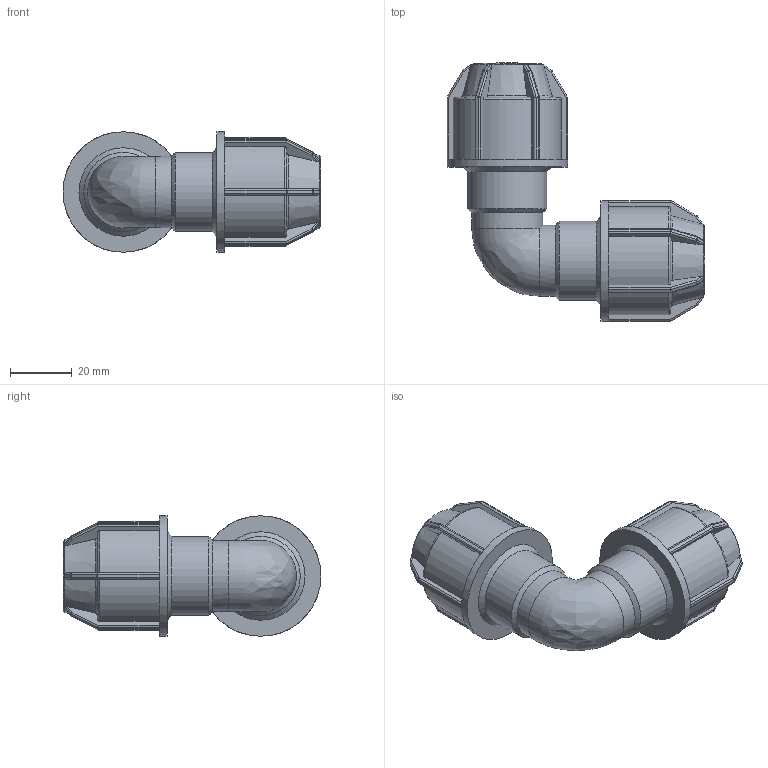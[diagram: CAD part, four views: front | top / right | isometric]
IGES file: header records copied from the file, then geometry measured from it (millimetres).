
Global section: file name: 140500016.ipt; native system: Autodesk Inventor 2015; preprocessor: unknown; author: KIM; date: 20180409.131038; units: millimetre
Bounding box: 83.5 x 83.5 x 39 mm (x, y, z)
Volume: 61000.8 mm3; surface area: 21732.6 mm2
Topology: 1 solids, 1 shells, 404 faces, 970 edges, 564 vertices
Faces by surface type: plane 190, cylinder 114, sphere 48, revolution 35, cone 16, bspline 1
Full cylindrical faces by diameter (mm): 23.04 x2, 25.6 x2, 39 x2
